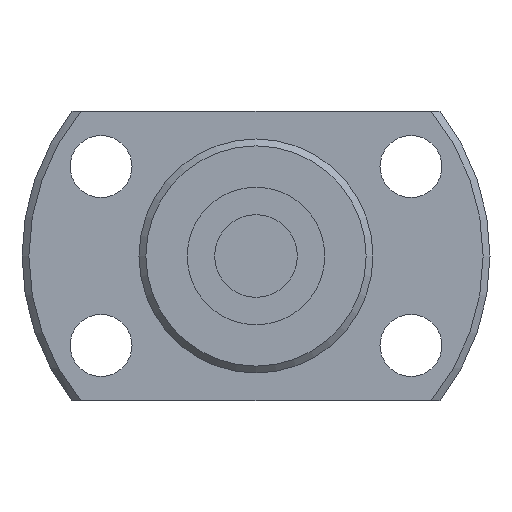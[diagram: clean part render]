
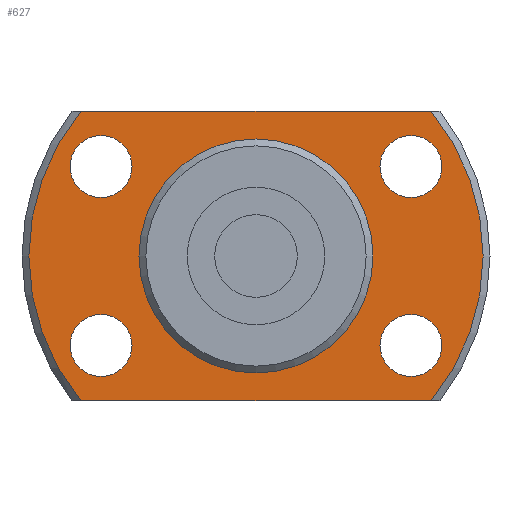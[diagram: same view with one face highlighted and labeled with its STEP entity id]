
A CAD part, left-side view. The second image highlights one B-rep face of the part: STEP entity #627.
In plain terms, the highlighted planar face has unit normal (-1, 0, 0) as drawn and (1, 0, 0) by its records, which use the part's own axes.
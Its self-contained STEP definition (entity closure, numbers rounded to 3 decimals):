
#77=LINE('',#1111,#95);
#78=LINE('',#1113,#96);
#95=VECTOR('',#920,1000.);
#96=VECTOR('',#921,1000.);
#196=ORIENTED_EDGE('',*,*,#298,.T.);
#197=ORIENTED_EDGE('',*,*,#276,.T.);
#198=ORIENTED_EDGE('',*,*,#299,.T.);
#199=ORIENTED_EDGE('',*,*,#300,.T.);
#200=ORIENTED_EDGE('',*,*,#301,.F.);
#201=ORIENTED_EDGE('',*,*,#302,.F.);
#202=ORIENTED_EDGE('',*,*,#303,.F.);
#203=ORIENTED_EDGE('',*,*,#304,.F.);
#204=ORIENTED_EDGE('',*,*,#297,.F.);
#276=EDGE_CURVE('',#339,#341,#392,.T.);
#297=EDGE_CURVE('',#360,#360,#407,.T.);
#298=EDGE_CURVE('',#361,#339,#77,.T.);
#299=EDGE_CURVE('',#341,#362,#78,.T.);
#300=EDGE_CURVE('',#362,#361,#408,.T.);
#301=EDGE_CURVE('',#363,#363,#409,.T.);
#302=EDGE_CURVE('',#364,#364,#410,.T.);
#303=EDGE_CURVE('',#365,#365,#411,.T.);
#304=EDGE_CURVE('',#366,#366,#412,.T.);
#339=VERTEX_POINT('',#1046);
#341=VERTEX_POINT('',#1053);
#360=VERTEX_POINT('',#1109);
#361=VERTEX_POINT('',#1112);
#362=VERTEX_POINT('',#1114);
#363=VERTEX_POINT('',#1117);
#364=VERTEX_POINT('',#1119);
#365=VERTEX_POINT('',#1121);
#366=VERTEX_POINT('',#1123);
#392=CIRCLE('',#712,16.5);
#407=CIRCLE('',#736,8.3);
#408=CIRCLE('',#738,16.5);
#409=CIRCLE('',#739,2.25);
#410=CIRCLE('',#740,2.25);
#411=CIRCLE('',#741,2.25);
#412=CIRCLE('',#742,2.25);
#475=EDGE_LOOP('',(#196,#197,#198,#199));
#476=EDGE_LOOP('',(#200));
#477=EDGE_LOOP('',(#201));
#478=EDGE_LOOP('',(#202));
#479=EDGE_LOOP('',(#203));
#480=EDGE_LOOP('',(#204));
#555=FACE_BOUND('',#475,.T.);
#556=FACE_BOUND('',#476,.T.);
#557=FACE_BOUND('',#477,.T.);
#558=FACE_BOUND('',#478,.T.);
#559=FACE_BOUND('',#479,.T.);
#560=FACE_BOUND('',#480,.T.);
#590=PLANE('',#737);
#627=ADVANCED_FACE('',(#555,#556,#557,#558,#559,#560),#590,.T.);
#712=AXIS2_PLACEMENT_3D('',#1054,#864,#865);
#736=AXIS2_PLACEMENT_3D('',#1108,#916,#917);
#737=AXIS2_PLACEMENT_3D('',#1110,#918,#919);
#738=AXIS2_PLACEMENT_3D('',#1115,#922,#923);
#739=AXIS2_PLACEMENT_3D('',#1116,#924,#925);
#740=AXIS2_PLACEMENT_3D('',#1118,#926,#927);
#741=AXIS2_PLACEMENT_3D('',#1120,#928,#929);
#742=AXIS2_PLACEMENT_3D('',#1122,#930,#931);
#864=DIRECTION('',(1.,0.,0.));
#865=DIRECTION('',(0.,0.,-1.));
#916=DIRECTION('',(1.,0.,0.));
#917=DIRECTION('',(0.,0.,-1.));
#918=DIRECTION('',(1.,0.,0.));
#919=DIRECTION('',(0.,0.,-1.));
#920=DIRECTION('',(0.,-1.,0.));
#921=DIRECTION('',(0.,1.,0.));
#922=DIRECTION('',(1.,0.,0.));
#923=DIRECTION('',(0.,0.,-1.));
#924=DIRECTION('',(1.,0.,0.));
#925=DIRECTION('',(0.,0.,-1.));
#926=DIRECTION('',(1.,0.,0.));
#927=DIRECTION('',(0.,0.,-1.));
#928=DIRECTION('',(1.,0.,0.));
#929=DIRECTION('',(0.,0.,-1.));
#930=DIRECTION('',(1.,0.,0.));
#931=DIRECTION('',(0.,0.,-1.));
#1046=CARTESIAN_POINT('',(5.,-12.728,10.5));
#1053=CARTESIAN_POINT('',(5.,-12.728,-10.5));
#1054=CARTESIAN_POINT('',(5.,0.,0.));
#1108=CARTESIAN_POINT('',(5.,0.,0.));
#1109=CARTESIAN_POINT('',(5.,0.,-8.3));
#1110=CARTESIAN_POINT('',(5.,8.3,0.));
#1111=CARTESIAN_POINT('',(5.,17.,10.5));
#1112=CARTESIAN_POINT('',(5.,12.728,10.5));
#1113=CARTESIAN_POINT('',(5.,-17.,-10.5));
#1114=CARTESIAN_POINT('',(5.,12.728,-10.5));
#1115=CARTESIAN_POINT('',(5.,0.,0.));
#1116=CARTESIAN_POINT('',(5.,11.258,6.5));
#1117=CARTESIAN_POINT('',(5.,11.258,4.25));
#1118=CARTESIAN_POINT('',(5.,-11.258,6.5));
#1119=CARTESIAN_POINT('',(5.,-11.258,4.25));
#1120=CARTESIAN_POINT('',(5.,-11.258,-6.5));
#1121=CARTESIAN_POINT('',(5.,-11.258,-8.75));
#1122=CARTESIAN_POINT('',(5.,11.258,-6.5));
#1123=CARTESIAN_POINT('',(5.,11.258,-8.75));
